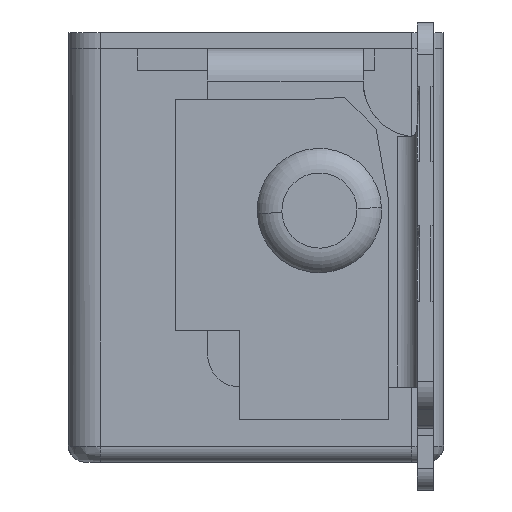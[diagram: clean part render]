
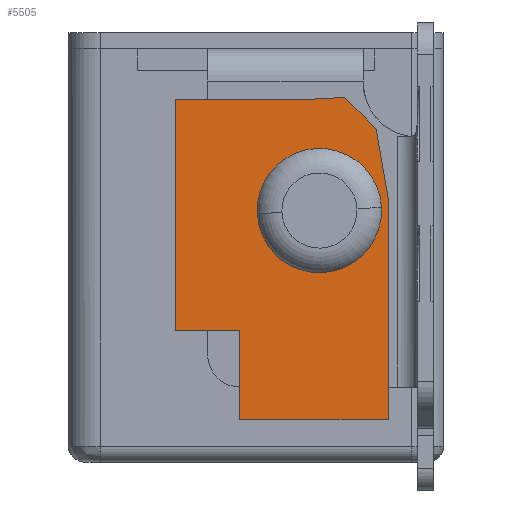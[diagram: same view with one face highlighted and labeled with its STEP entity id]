
A CAD part, left-side view. The second image highlights one B-rep face of the part: STEP entity #5505.
In plain terms, the highlighted planar face has unit normal (-1, 0, 0) as drawn and (1, 0, 0) by its records, which use the part's own axes.
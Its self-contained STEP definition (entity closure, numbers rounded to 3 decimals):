
#5439 = VERTEX_POINT('',#5440);
#5440 = CARTESIAN_POINT('',(-0.83,1.835,0.005));
#5464 = VERTEX_POINT('',#5465);
#5465 = CARTESIAN_POINT('',(-0.83,1.732,-2.053));
#5471 = EDGE_CURVE('',#5439,#5464,#5472,.T.);
#5472 = LINE('',#5473,#5474);
#5473 = CARTESIAN_POINT('',(-0.83,1.835,0.005));
#5474 = VECTOR('',#5475,1.);
#5475 = DIRECTION('',(0.,-0.05,-0.999));
#5486 = EDGE_CURVE('',#5487,#5439,#5489,.T.);
#5487 = VERTEX_POINT('',#5488);
#5488 = CARTESIAN_POINT('',(-0.83,1.757,0.65));
#5489 = LINE('',#5490,#5491);
#5490 = CARTESIAN_POINT('',(-0.83,1.757,0.65));
#5491 = VECTOR('',#5492,1.);
#5492 = DIRECTION('',(0.,0.12,-0.993));
#5505 = ADVANCED_FACE('',(#5506,#5564),#5602,.T.);
#5506 = FACE_BOUND('',#5507,.F.);
#5507 = EDGE_LOOP('',(#5508,#5518,#5524,#5525,#5526,#5534,#5542,#5550,
    #5558));
#5508 = ORIENTED_EDGE('',*,*,#5509,.F.);
#5509 = EDGE_CURVE('',#5510,#5512,#5514,.T.);
#5510 = VERTEX_POINT('',#5511);
#5511 = CARTESIAN_POINT('',(-0.83,1.48,0.96));
#5512 = VERTEX_POINT('',#5513);
#5513 = CARTESIAN_POINT('',(-0.83,1.118,0.96));
#5514 = LINE('',#5515,#5516);
#5515 = CARTESIAN_POINT('',(-0.83,1.48,0.96));
#5516 = VECTOR('',#5517,1.);
#5517 = DIRECTION('',(0.,-1.,0.));
#5518 = ORIENTED_EDGE('',*,*,#5519,.T.);
#5519 = EDGE_CURVE('',#5510,#5487,#5520,.T.);
#5520 = LINE('',#5521,#5522);
#5521 = CARTESIAN_POINT('',(-0.83,1.48,0.96));
#5522 = VECTOR('',#5523,1.);
#5523 = DIRECTION('',(0.,0.666,-0.746));
#5524 = ORIENTED_EDGE('',*,*,#5486,.T.);
#5525 = ORIENTED_EDGE('',*,*,#5471,.T.);
#5526 = ORIENTED_EDGE('',*,*,#5527,.T.);
#5527 = EDGE_CURVE('',#5464,#5528,#5530,.T.);
#5528 = VERTEX_POINT('',#5529);
#5529 = CARTESIAN_POINT('',(-0.83,0.353,-1.984));
#5530 = LINE('',#5531,#5532);
#5531 = CARTESIAN_POINT('',(-0.83,1.732,-2.053));
#5532 = VECTOR('',#5533,1.);
#5533 = DIRECTION('',(0.,-0.999,0.05));
#5534 = ORIENTED_EDGE('',*,*,#5535,.T.);
#5535 = EDGE_CURVE('',#5528,#5536,#5538,.T.);
#5536 = VERTEX_POINT('',#5537);
#5537 = CARTESIAN_POINT('',(-0.83,0.395,-1.163));
#5538 = LINE('',#5539,#5540);
#5539 = CARTESIAN_POINT('',(-0.83,0.353,-1.984));
#5540 = VECTOR('',#5541,1.);
#5541 = DIRECTION('',(0.,0.05,0.999));
#5542 = ORIENTED_EDGE('',*,*,#5543,.T.);
#5543 = EDGE_CURVE('',#5536,#5544,#5546,.T.);
#5544 = VERTEX_POINT('',#5545);
#5545 = CARTESIAN_POINT('',(-0.83,-0.205,-1.133));
#5546 = LINE('',#5547,#5548);
#5547 = CARTESIAN_POINT('',(-0.83,0.395,-1.163));
#5548 = VECTOR('',#5549,1.);
#5549 = DIRECTION('',(0.,-0.999,0.05));
#5550 = ORIENTED_EDGE('',*,*,#5551,.T.);
#5551 = EDGE_CURVE('',#5544,#5552,#5554,.T.);
#5552 = VERTEX_POINT('',#5553);
#5553 = CARTESIAN_POINT('',(-0.83,-0.097,1.021));
#5554 = LINE('',#5555,#5556);
#5555 = CARTESIAN_POINT('',(-0.83,-0.205,-1.133));
#5556 = VECTOR('',#5557,1.);
#5557 = DIRECTION('',(0.,0.05,0.999));
#5558 = ORIENTED_EDGE('',*,*,#5559,.T.);
#5559 = EDGE_CURVE('',#5552,#5512,#5560,.T.);
#5560 = LINE('',#5561,#5562);
#5561 = CARTESIAN_POINT('',(-0.83,-0.097,1.021));
#5562 = VECTOR('',#5563,1.);
#5563 = DIRECTION('',(0.,0.999,-0.05));
#5564 = FACE_BOUND('',#5565,.F.);
#5565 = EDGE_LOOP('',(#5566,#5577,#5586,#5595));
#5566 = ORIENTED_EDGE('',*,*,#5567,.T.);
#5567 = EDGE_CURVE('',#5568,#5570,#5572,.T.);
#5568 = VERTEX_POINT('',#5569);
#5569 = CARTESIAN_POINT('',(-0.83,1.769,-0.08));
#5570 = VERTEX_POINT('',#5571);
#5571 = CARTESIAN_POINT('',(-0.83,0.611,-0.076));
#5572 = CIRCLE('',#5573,0.579);
#5573 = AXIS2_PLACEMENT_3D('',#5574,#5575,#5576);
#5574 = CARTESIAN_POINT('',(-0.83,1.19,-0.08));
#5575 = DIRECTION('',(1.,0.,0.));
#5576 = DIRECTION('',(-0.,1.,0.));
#5577 = ORIENTED_EDGE('',*,*,#5578,.F.);
#5578 = EDGE_CURVE('',#5579,#5570,#5581,.T.);
#5579 = VERTEX_POINT('',#5580);
#5580 = CARTESIAN_POINT('',(-0.83,0.611,-0.08));
#5581 = CIRCLE('',#5582,0.579);
#5582 = AXIS2_PLACEMENT_3D('',#5583,#5584,#5585);
#5583 = CARTESIAN_POINT('',(-0.83,1.19,-0.08));
#5584 = DIRECTION('',(-1.,0.,0.));
#5585 = DIRECTION('',(-0.,-1.,0.));
#5586 = ORIENTED_EDGE('',*,*,#5587,.T.);
#5587 = EDGE_CURVE('',#5579,#5588,#5590,.T.);
#5588 = VERTEX_POINT('',#5589);
#5589 = CARTESIAN_POINT('',(-0.83,1.769,-0.084));
#5590 = CIRCLE('',#5591,0.579);
#5591 = AXIS2_PLACEMENT_3D('',#5592,#5593,#5594);
#5592 = CARTESIAN_POINT('',(-0.83,1.19,-0.08));
#5593 = DIRECTION('',(1.,0.,0.));
#5594 = DIRECTION('',(0.,-1.,0.));
#5595 = ORIENTED_EDGE('',*,*,#5596,.F.);
#5596 = EDGE_CURVE('',#5568,#5588,#5597,.T.);
#5597 = CIRCLE('',#5598,0.579);
#5598 = AXIS2_PLACEMENT_3D('',#5599,#5600,#5601);
#5599 = CARTESIAN_POINT('',(-0.83,1.19,-0.08));
#5600 = DIRECTION('',(-1.,0.,0.));
#5601 = DIRECTION('',(0.,1.,0.));
#5602 = PLANE('',#5603);
#5603 = AXIS2_PLACEMENT_3D('',#5604,#5605,#5606);
#5604 = CARTESIAN_POINT('',(-0.83,0.,0.));
#5605 = DIRECTION('',(1.,0.,0.));
#5606 = DIRECTION('',(-0.,1.,0.));
